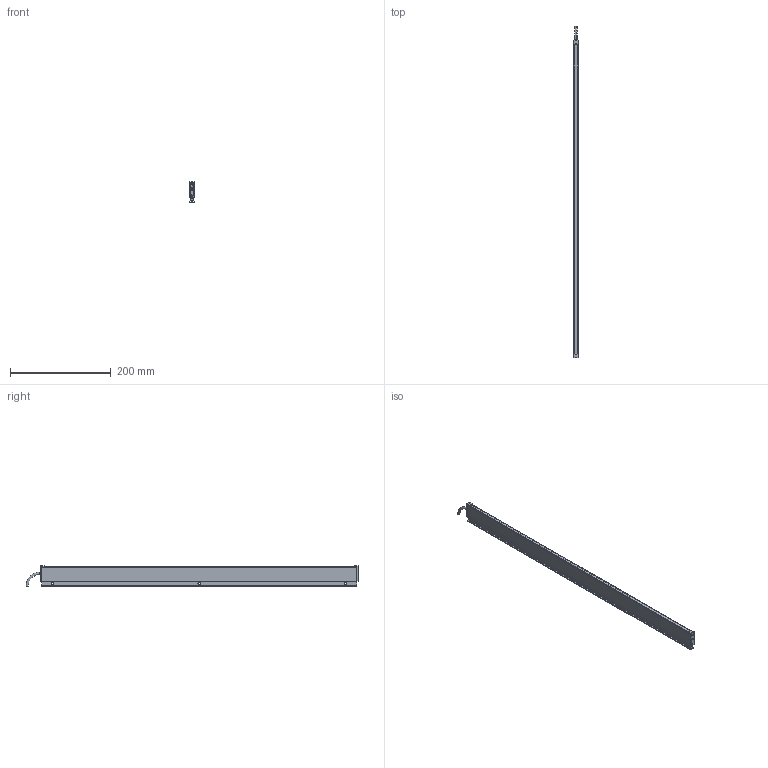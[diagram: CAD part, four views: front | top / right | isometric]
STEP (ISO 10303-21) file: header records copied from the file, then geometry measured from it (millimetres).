
FILE_DESCRIPTION (( 'STEP AP214' ), '1' );
FILE_NAME ('ILG-L-K1-0630mm.STEP', '2017-07-11T07:01:30', ( '' ), ( '' ), 'SwSTEP 2.0', 'SolidWorks 2016', '' );
FILE_SCHEMA (( 'AUTOMOTIVE_DESIGN' ));
Length unit declared in the file: millimetre
Products named in the file (1): ILG-L-K1-0630mm
Bounding box: 9 x 658.25 x 40.71 mm (x, y, z)
Volume: 90919 mm3; surface area: 125927.6 mm2
Topology: 9 solids, 9 shells, 430 faces, 1108 edges, 698 vertices
Faces by surface type: plane 205, cylinder 151, cone 64, torus 10
Entity records: 17910 total; most frequent: CARTESIAN_POINT 2385, DIRECTION 2328, ORIENTED_EDGE 2200, EDGE_CURVE 1100, AXIS2_PLACEMENT_3D 849, VERTEX_POINT 698, VECTOR 630, LINE 630
